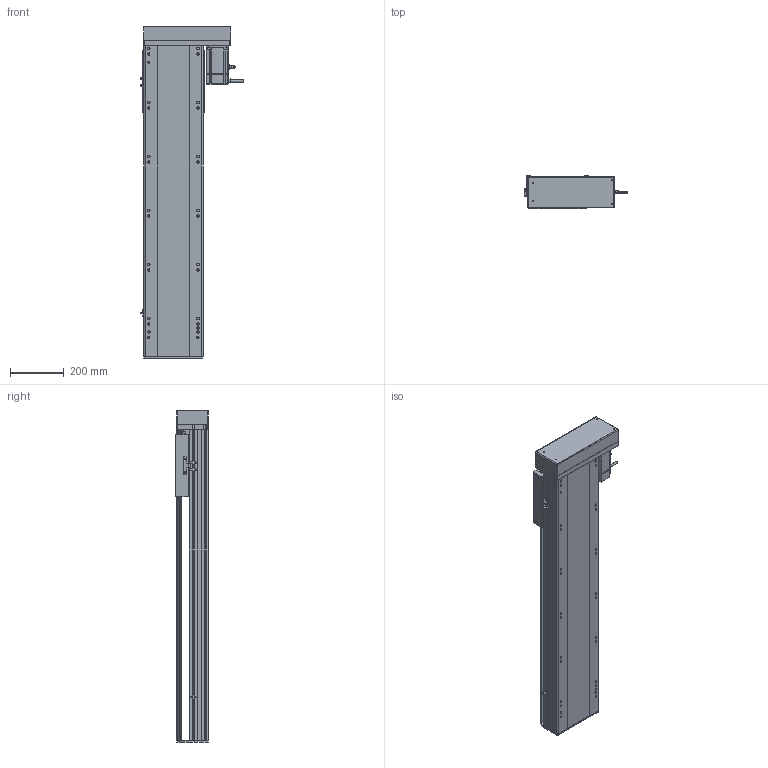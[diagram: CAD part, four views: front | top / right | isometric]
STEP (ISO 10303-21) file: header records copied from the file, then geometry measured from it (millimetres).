
FILE_DESCRIPTION (( 'STEP AP214' ), '1' );
FILE_NAME ('RTH22-XX-850-L-M75-C4.STEP', '2025-10-24T10:59:26', ( 'Microsoft' ), ( 'Microsoft' ), 'SwSTEP 2.0', 'SolidWorks 2018', '' );
FILE_SCHEMA (( 'AUTOMOTIVE_DESIGN' ));
Length unit declared in the file: millimetre
Products named in the file (10): RTH22-XX-850-L-M75-C4; N_RTH22-GY-013外置感应片^RTH22-XX-XX-L-M75-C4; N_RTH22-GY-001耜裔^RTH22-XX-XX-L-M75-C4; N_OMRON EE-SX672 传感器^RTH22-XX-XX-L-M75-C4; N_RTH22-L-004-SFS25賑釱^RTH22-XX-XX-L-M75-C4; N_RTH22-L-011菁釱^RTH22-XX-XX-L-M75-C4; N_RTH22-L-008-P75萇儂啣^RTH22-XX-XX-L-M75-C4; N_RTH22-L-007奻裔^RTH22-XX-XX-L-M75-C4; N_RTH22-L-018裔赽^RTH22-XX-XX-L-M75-C4; N_750W萇儂^RTH22-XX-XX-L-M75-C4
Assembly tree (11 placements, depth 2):
  RTH22-XX-850-L-M75-C4
    N_RTH22-L-011菁釱^RTH22-XX-XX-L-M75-C4
    N_RTH22-GY-001耜裔^RTH22-XX-XX-L-M75-C4
    N_750W萇儂^RTH22-XX-XX-L-M75-C4
    N_RTH22-L-008-P75萇儂啣^RTH22-XX-XX-L-M75-C4
    N_RTH22-L-007奻裔^RTH22-XX-XX-L-M75-C4
    N_RTH22-L-018裔赽^RTH22-XX-XX-L-M75-C4
    N_OMRON EE-SX672 传感器^RTH22-XX-XX-L-M75-C4  x3
    N_RTH22-GY-013外置感应片^RTH22-XX-XX-L-M75-C4
    N_RTH22-L-004-SFS25賑釱^RTH22-XX-XX-L-M75-C4
Bounding box: 384.7 x 122 x 1229.7 mm (x, y, z)
Volume: 17142924.4 mm3; surface area: 1942227.3 mm2
Topology: 11 solids, 11 shells, 1606 faces, 4379 edges, 2821 vertices
Faces by surface type: plane 795, cylinder 470, bspline 279, cone 62
Entity records: 40335 total; most frequent: CARTESIAN_POINT 12262, ORIENTED_EDGE 5726, DIRECTION 5413, EDGE_CURVE 2863, VERTEX_POINT 1857, AXIS2_PLACEMENT_3D 1824, LINE 1765, VECTOR 1765
